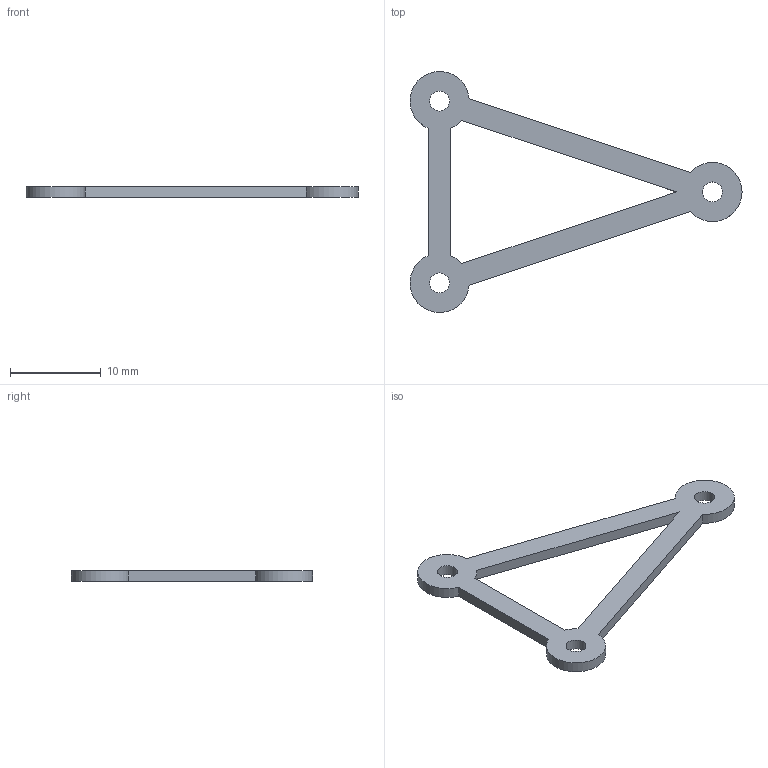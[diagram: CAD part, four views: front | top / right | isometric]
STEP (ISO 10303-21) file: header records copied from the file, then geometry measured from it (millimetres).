
FILE_DESCRIPTION(('Open CASCADE Model'),'2;1');
FILE_NAME('Open CASCADE Shape Model','2026-11-14T12:48:48',('Author'),( 'Open CASCADE'),'Open CASCADE STEP processor 7.9','Open CASCADE 7.9' ,'Unknown');
FILE_SCHEMA(('AUTOMOTIVE_DESIGN { 1 0 10303 214 1 1 1 1 }'));
Length unit declared in the file: millimetre
Products named in the file (1): Open CASCADE STEP translator 7.9 2
Bounding box: 36.5 x 26.5 x 1.2 mm (x, y, z)
Volume: 298.3 mm3; surface area: 732.4 mm2
Topology: 1 solids, 1 shells, 16 faces, 42 edges, 28 vertices
Faces by surface type: plane 8, cylinder 8
Full cylindrical faces by diameter (mm): 2.2 x3
Entity records: 1098 total; most frequent: CARTESIAN_POINT 219, DIRECTION 168, LINE 94, VECTOR 94, ORIENTED_EDGE 84, PCURVE 84, DEFINITIONAL_REPRESENTATION 84, EDGE_CURVE 42
